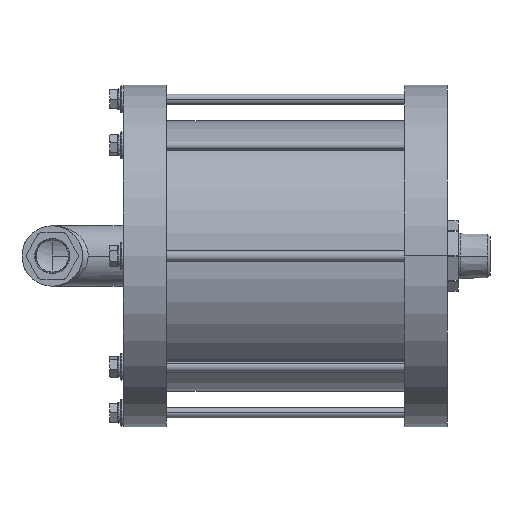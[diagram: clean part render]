
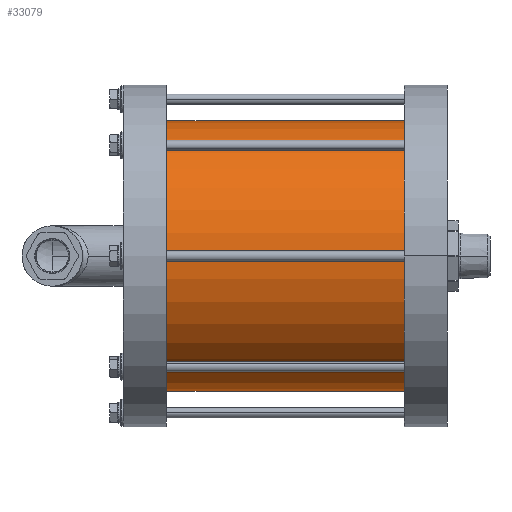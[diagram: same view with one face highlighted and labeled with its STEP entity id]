
A CAD part, left-side view. The second image highlights one B-rep face of the part: STEP entity #33079.
In plain terms, the highlighted cylindrical face has radius 79.375 mm (diameter 158.75 mm), a partial arc.
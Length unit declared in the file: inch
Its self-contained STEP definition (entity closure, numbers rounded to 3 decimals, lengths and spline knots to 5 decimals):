
#1272 = DIRECTION ( 'NONE',  ( 0., -1., 0. ) ) ;
#1342 = DIRECTION ( 'NONE',  ( 0., 1., 0. ) ) ;
#2666 = CYLINDRICAL_SURFACE ( 'NONE', #17092, 3.125 ) ;
#3584 = EDGE_LOOP ( 'NONE', ( #20014, #4045, #9071, #31999 ) ) ;
#3843 = VECTOR ( 'NONE', #7008, 39.37008 ) ;
#4045 = ORIENTED_EDGE ( 'NONE', *, *, #10250, .F. ) ;
#4360 = VERTEX_POINT ( 'NONE', #17027 ) ;
#4584 = CARTESIAN_POINT ( 'NONE',  ( 0., 0.875, 3.125 ) ) ;
#5628 = AXIS2_PLACEMENT_3D ( 'NONE', #16845, #1342, #19441 ) ;
#5687 = CARTESIAN_POINT ( 'NONE',  ( 0., 6.625, -3.125 ) ) ;
#5923 = FACE_OUTER_BOUND ( 'NONE', #3584, .T. ) ;
#6688 = VECTOR ( 'NONE', #1272, 39.37008 ) ;
#6820 = CARTESIAN_POINT ( 'NONE',  ( 0., 0.875, 0. ) ) ;
#7008 = DIRECTION ( 'NONE',  ( 0., -1., 0. ) ) ;
#8505 = VERTEX_POINT ( 'NONE', #5687 ) ;
#9071 = ORIENTED_EDGE ( 'NONE', *, *, #24035, .T. ) ;
#9412 = DIRECTION ( 'NONE',  ( 0., 0., 1. ) ) ;
#9594 = CARTESIAN_POINT ( 'NONE',  ( 0., 6.625, -3.125 ) ) ;
#9753 = EDGE_CURVE ( 'NONE', #21396, #33006, #13572, .T. ) ;
#10250 = EDGE_CURVE ( 'NONE', #8505, #21396, #15780, .T. ) ;
#11283 = EDGE_CURVE ( 'NONE', #4360, #33006, #11620, .T. ) ;
#11620 = CIRCLE ( 'NONE', #29709, 3.125 ) ;
#12724 = CARTESIAN_POINT ( 'NONE',  ( 0., 6.625, 0. ) ) ;
#12849 = DIRECTION ( 'NONE',  ( 0., 0., -1. ) ) ;
#13572 = LINE ( 'NONE', #14171, #6688 ) ;
#14171 = CARTESIAN_POINT ( 'NONE',  ( 0., 6.625, 3.125 ) ) ;
#15324 = DIRECTION ( 'NONE',  ( 0., -1., 0. ) ) ;
#15780 = CIRCLE ( 'NONE', #5628, 3.125 ) ;
#16845 = CARTESIAN_POINT ( 'NONE',  ( 0., 6.625, 0. ) ) ;
#17027 = CARTESIAN_POINT ( 'NONE',  ( 0., 0.875, -3.125 ) ) ;
#17092 = AXIS2_PLACEMENT_3D ( 'NONE', #12724, #15324, #12849 ) ;
#19441 = DIRECTION ( 'NONE',  ( 0., 0., 1. ) ) ;
#20014 = ORIENTED_EDGE ( 'NONE', *, *, #9753, .F. ) ;
#21396 = VERTEX_POINT ( 'NONE', #23433 ) ;
#23433 = CARTESIAN_POINT ( 'NONE',  ( 0., 6.625, 3.125 ) ) ;
#24035 = EDGE_CURVE ( 'NONE', #8505, #4360, #30600, .T. ) ;
#24937 = DIRECTION ( 'NONE',  ( 0., 1., 0. ) ) ;
#29709 = AXIS2_PLACEMENT_3D ( 'NONE', #6820, #24937, #9412 ) ;
#30600 = LINE ( 'NONE', #9594, #3843 ) ;
#31999 = ORIENTED_EDGE ( 'NONE', *, *, #11283, .T. ) ;
#33006 = VERTEX_POINT ( 'NONE', #4584 ) ;
#33079 = ADVANCED_FACE ( 'NONE', ( #5923 ), #2666, .T. ) ;
